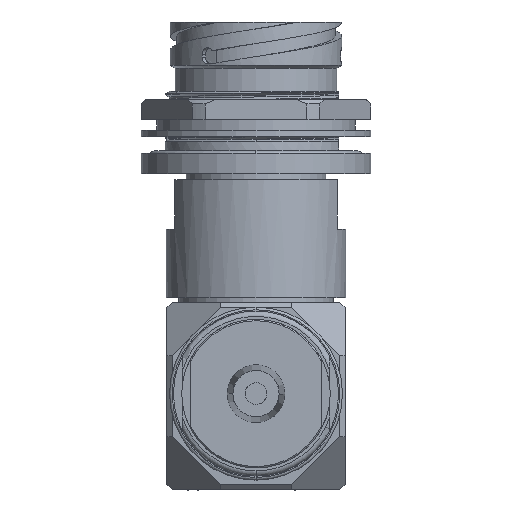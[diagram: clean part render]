
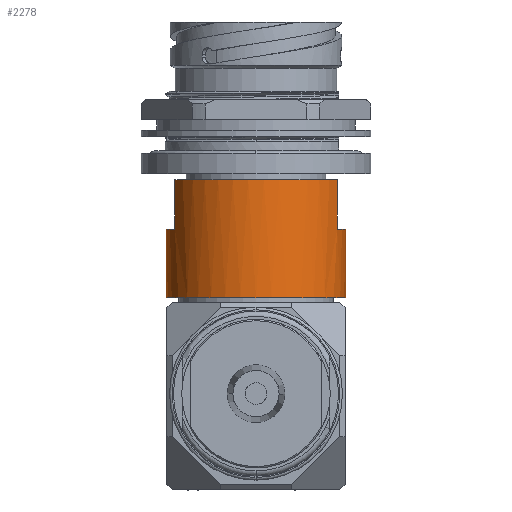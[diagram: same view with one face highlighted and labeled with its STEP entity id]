
A CAD part, front view. The second image highlights one B-rep face of the part: STEP entity #2278.
In plain terms, the highlighted cylindrical face has radius 17.272 mm (diameter 34.544 mm), a partial arc.
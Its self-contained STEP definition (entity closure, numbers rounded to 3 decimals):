
#373 = AXIS2_PLACEMENT_3D ( 'NONE', #5781, #13239, #11389 ) ;
#809 = ORIENTED_EDGE ( 'NONE', *, *, #23411, .T. ) ;
#1393 = CIRCLE ( 'NONE', #11545, 17.272 ) ;
#1448 = DIRECTION ( 'NONE',  ( 0., 0., -1. ) ) ;
#1680 = CARTESIAN_POINT ( 'NONE',  ( 0., 0., -53.01 ) ) ;
#1991 = DIRECTION ( 'NONE',  ( 0., 0., -1. ) ) ;
#2270 = VERTEX_POINT ( 'NONE', #18215 ) ;
#2278 = ADVANCED_FACE ( 'NONE', ( #6586 ), #3165, .T. ) ;
#2323 = VECTOR ( 'NONE', #3893, 1000. ) ;
#3165 = CYLINDRICAL_SURFACE ( 'NONE', #10488, 17.272 ) ;
#3493 = VECTOR ( 'NONE', #1991, 1000. ) ;
#3893 = DIRECTION ( 'NONE',  ( 0., 0., -1. ) ) ;
#4112 = EDGE_LOOP ( 'NONE', ( #21032, #809, #9468, #19542, #10492, #19874, #24177, #19960 ) ) ;
#4841 = EDGE_CURVE ( 'NONE', #2270, #9091, #22998, .T. ) ;
#5096 = DIRECTION ( 'NONE',  ( 1., 0., 0. ) ) ;
#5228 = CARTESIAN_POINT ( 'NONE',  ( -17.272, 0., -53.01 ) ) ;
#5461 = CARTESIAN_POINT ( 'NONE',  ( 0., 0., -30.328 ) ) ;
#5656 = CARTESIAN_POINT ( 'NONE',  ( 17.272, 0., -30.328 ) ) ;
#5781 = CARTESIAN_POINT ( 'NONE',  ( 0., 0., -39.853 ) ) ;
#6586 = FACE_OUTER_BOUND ( 'NONE', #4112, .T. ) ;
#6712 = CARTESIAN_POINT ( 'NONE',  ( 0., 0., -30.328 ) ) ;
#6954 = DIRECTION ( 'NONE',  ( 1., 0., 0. ) ) ;
#7481 = LINE ( 'NONE', #5656, #3493 ) ;
#7806 = AXIS2_PLACEMENT_3D ( 'NONE', #20120, #10936, #12537 ) ;
#7813 = VERTEX_POINT ( 'NONE', #18869 ) ;
#8869 = DIRECTION ( 'NONE',  ( 0., 0., -1. ) ) ;
#9091 = VERTEX_POINT ( 'NONE', #5228 ) ;
#9393 = CARTESIAN_POINT ( 'NONE',  ( 15.621, -7.369, -30.328 ) ) ;
#9468 = ORIENTED_EDGE ( 'NONE', *, *, #4841, .F. ) ;
#9863 = VERTEX_POINT ( 'NONE', #13246 ) ;
#10042 = CARTESIAN_POINT ( 'NONE',  ( -15.621, -7.369, -30.328 ) ) ;
#10448 = EDGE_CURVE ( 'NONE', #16381, #22942, #19902, .T. ) ;
#10488 = AXIS2_PLACEMENT_3D ( 'NONE', #6712, #1448, #6954 ) ;
#10492 = ORIENTED_EDGE ( 'NONE', *, *, #10448, .F. ) ;
#10793 = EDGE_CURVE ( 'NONE', #7813, #23906, #15439, .T. ) ;
#10900 = CIRCLE ( 'NONE', #373, 17.272 ) ;
#10936 = DIRECTION ( 'NONE',  ( 0., 0., 1. ) ) ;
#11112 = EDGE_CURVE ( 'NONE', #9863, #16381, #18332, .T. ) ;
#11129 = DIRECTION ( 'NONE',  ( 0., 0., -1. ) ) ;
#11309 = VECTOR ( 'NONE', #19110, 1000. ) ;
#11389 = DIRECTION ( 'NONE',  ( 1., 0., 0. ) ) ;
#11545 = AXIS2_PLACEMENT_3D ( 'NONE', #5461, #8869, #5096 ) ;
#12537 = DIRECTION ( 'NONE',  ( 1., 0., 0. ) ) ;
#13061 = CARTESIAN_POINT ( 'NONE',  ( 15.621, -7.369, -39.853 ) ) ;
#13066 = CARTESIAN_POINT ( 'NONE',  ( 17.272, 0., -39.853 ) ) ;
#13239 = DIRECTION ( 'NONE',  ( 0., 0., 1. ) ) ;
#13246 = CARTESIAN_POINT ( 'NONE',  ( 15.621, -7.369, -30.328 ) ) ;
#13952 = EDGE_CURVE ( 'NONE', #22942, #2270, #7481, .T. ) ;
#13991 = EDGE_CURVE ( 'NONE', #23444, #7813, #10900, .T. ) ;
#14014 = VECTOR ( 'NONE', #11129, 1000. ) ;
#14520 = DIRECTION ( 'NONE',  ( 1., 0., 0. ) ) ;
#14808 = CARTESIAN_POINT ( 'NONE',  ( -17.272, 0., -30.328 ) ) ;
#15439 = LINE ( 'NONE', #22898, #11309 ) ;
#16381 = VERTEX_POINT ( 'NONE', #13061 ) ;
#16725 = DIRECTION ( 'NONE',  ( 0., 0., -1. ) ) ;
#16774 = CARTESIAN_POINT ( 'NONE',  ( -17.272, 0., -39.853 ) ) ;
#16794 = EDGE_CURVE ( 'NONE', #9863, #23906, #1393, .T. ) ;
#18215 = CARTESIAN_POINT ( 'NONE',  ( 17.272, 0., -53.01 ) ) ;
#18332 = LINE ( 'NONE', #9393, #2323 ) ;
#18869 = CARTESIAN_POINT ( 'NONE',  ( -15.621, -7.369, -39.853 ) ) ;
#19110 = DIRECTION ( 'NONE',  ( 0., 0., 1. ) ) ;
#19542 = ORIENTED_EDGE ( 'NONE', *, *, #13952, .F. ) ;
#19874 = ORIENTED_EDGE ( 'NONE', *, *, #11112, .F. ) ;
#19902 = CIRCLE ( 'NONE', #7806, 17.272 ) ;
#19960 = ORIENTED_EDGE ( 'NONE', *, *, #10793, .F. ) ;
#20120 = CARTESIAN_POINT ( 'NONE',  ( 0., 0., -39.853 ) ) ;
#21032 = ORIENTED_EDGE ( 'NONE', *, *, #13991, .F. ) ;
#22898 = CARTESIAN_POINT ( 'NONE',  ( -15.621, -7.369, -30.328 ) ) ;
#22942 = VERTEX_POINT ( 'NONE', #13066 ) ;
#22998 = CIRCLE ( 'NONE', #24171, 17.272 ) ;
#23411 = EDGE_CURVE ( 'NONE', #23444, #9091, #24114, .T. ) ;
#23444 = VERTEX_POINT ( 'NONE', #16774 ) ;
#23906 = VERTEX_POINT ( 'NONE', #10042 ) ;
#24114 = LINE ( 'NONE', #14808, #14014 ) ;
#24171 = AXIS2_PLACEMENT_3D ( 'NONE', #1680, #16725, #14520 ) ;
#24177 = ORIENTED_EDGE ( 'NONE', *, *, #16794, .T. ) ;
